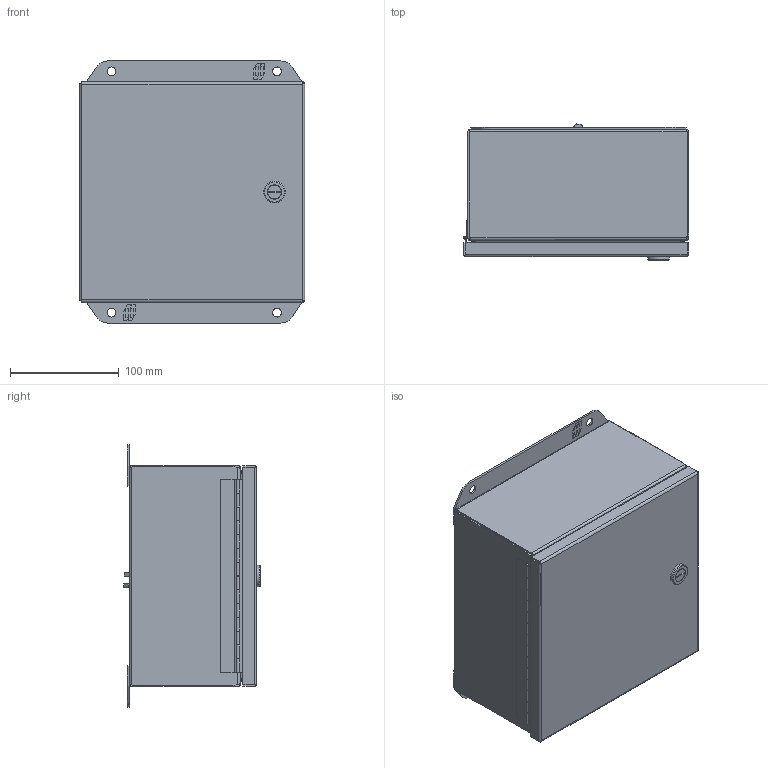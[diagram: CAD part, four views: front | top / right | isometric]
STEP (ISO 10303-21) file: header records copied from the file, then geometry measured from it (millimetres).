
FILE_DESCRIPTION(/* description */ ('Unknown'),/* implementation_level */ '2;1');
FILE_NAME(/* name */ 'EJ884',/* time_stamp */ '2018-10-29T15:20:46-04:00',/* author */ ('Unknown'),/* organization */ ('Unknown'),/* preprocessor_version */ 'ST-DEVELOPER v16.7',/* originating_system */ 'DEX',/* authorisation */ $);
FILE_SCHEMA (('AUTOMOTIVE_DESIGN {1 0 10303 214 3 1 1}'));
Length unit declared in the file: millimetre
Products named in the file (21): EJ884; QLB20280; KIT95026; NTS17050; NTS16500; LAB30005; scs18968; WAF250205; WAL251505; LOK10017; COM70219_oa_0; COM54602-6; HNG14586-7C; std26020; COM54603-4; COM54604-3; std26152; COM54601-9; HNG14586-7P; HNG14586-7B
Assembly tree (25 placements, depth 3):
  EJ884
    QLB20280
    KIT95026
      NTS17050
      NTS16500
      LAB30005
      scs18968
      WAF250205
      WAL251505
    LOK10017
    COM70219_oa_0
    COM54602-6
      HNG14586-7C
      std26020
      COM54602-6
    COM54603-4
    COM54604-3  x2
    std26152  x5
    COM54601-9
    HNG14586-7P
    HNG14586-7B
Bounding box: 207.4 x 125.3 x 241.3 mm (x, y, z)
Volume: 414200.5 mm3; surface area: 542343.3 mm2
Topology: 22 solids, 23 shells, 900 faces, 2322 edges, 1490 vertices
Faces by surface type: plane 492, cylinder 197, bspline 173, cone 30, torus 8
Full cylindrical faces by diameter (mm): 1.143 x1, 3.967 x7, 4.699 x1, 4.775 x1, 5.461 x1, 6.35 x1, 6.731 x4, 7.938 x4, 9.525 x6, 9.779 x1, 11.049 x1, 12.7 x1, 13.106 x1, 13.589 x1, 20.015 x1
Entity records: 28140 total; most frequent: CARTESIAN_POINT 8562, ORIENTED_EDGE 4198, DIRECTION 3465, EDGE_CURVE 2099, VERTEX_POINT 1364, LINE 1343, VECTOR 1343, AXIS2_PLACEMENT_3D 1061
